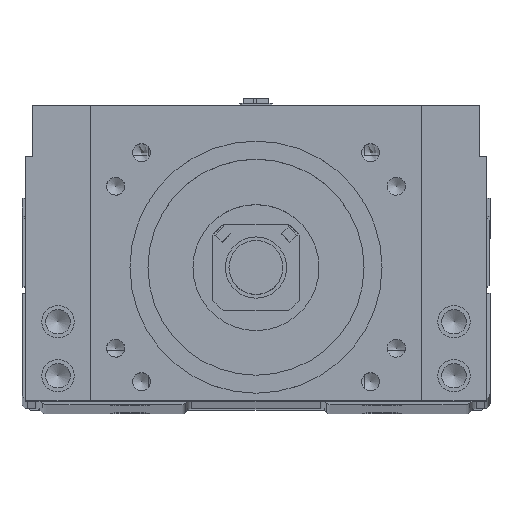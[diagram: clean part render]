
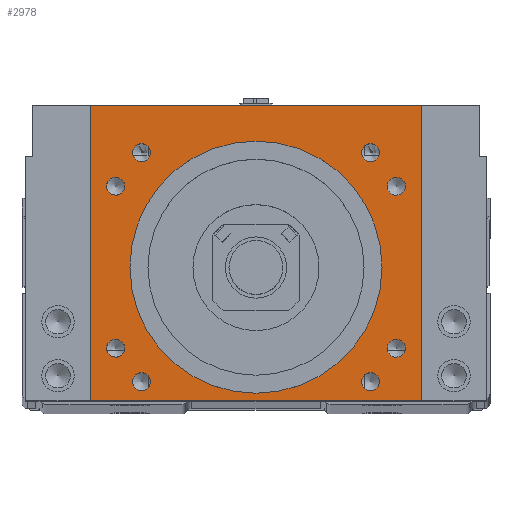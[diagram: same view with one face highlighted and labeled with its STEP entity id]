
A CAD part, top view. The second image highlights one B-rep face of the part: STEP entity #2978.
In plain terms, the highlighted planar face has unit normal (0, 0, 1).
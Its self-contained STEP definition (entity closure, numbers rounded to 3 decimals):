
#2044=FACE_BOUND('',#5305,.T.);
#2045=FACE_BOUND('',#5306,.T.);
#2046=FACE_BOUND('',#5307,.T.);
#2047=FACE_BOUND('',#5308,.T.);
#2048=FACE_BOUND('',#5309,.T.);
#2049=FACE_BOUND('',#5310,.T.);
#2050=FACE_BOUND('',#5311,.T.);
#2051=FACE_BOUND('',#5312,.T.);
#2052=FACE_BOUND('',#5313,.T.);
#2053=FACE_BOUND('',#5314,.T.);
#2978=ADVANCED_FACE('',(#2044,#2045,#2046,#2047,#2048,#2049,#2050,#2051,
#2052,#2053),#3853,.T.);
#3853=PLANE('',#17960);
#5305=EDGE_LOOP('',(#8374,#8375,#8376,#8377));
#5306=EDGE_LOOP('',(#8378));
#5307=EDGE_LOOP('',(#8379));
#5308=EDGE_LOOP('',(#8380));
#5309=EDGE_LOOP('',(#8381));
#5310=EDGE_LOOP('',(#8382));
#5311=EDGE_LOOP('',(#8383));
#5312=EDGE_LOOP('',(#8384));
#5313=EDGE_LOOP('',(#8385));
#5314=EDGE_LOOP('',(#8386));
#6519=CIRCLE('',#17950,35.015);
#6520=CIRCLE('',#17952,2.5);
#6521=CIRCLE('',#17953,2.5);
#6522=CIRCLE('',#17954,2.5);
#6523=CIRCLE('',#17955,2.5);
#6524=CIRCLE('',#17956,2.5);
#6525=CIRCLE('',#17957,2.5);
#6526=CIRCLE('',#17958,2.5);
#6527=CIRCLE('',#17959,2.5);
#8374=ORIENTED_EDGE('',*,*,#13492,.T.);
#8375=ORIENTED_EDGE('',*,*,#13480,.T.);
#8376=ORIENTED_EDGE('',*,*,#13487,.T.);
#8377=ORIENTED_EDGE('',*,*,#13497,.T.);
#8378=ORIENTED_EDGE('',*,*,#13505,.F.);
#8379=ORIENTED_EDGE('',*,*,#13506,.T.);
#8380=ORIENTED_EDGE('',*,*,#13507,.T.);
#8381=ORIENTED_EDGE('',*,*,#13508,.F.);
#8382=ORIENTED_EDGE('',*,*,#13504,.F.);
#8383=ORIENTED_EDGE('',*,*,#13509,.T.);
#8384=ORIENTED_EDGE('',*,*,#13510,.T.);
#8385=ORIENTED_EDGE('',*,*,#13511,.T.);
#8386=ORIENTED_EDGE('',*,*,#13512,.T.);
#11696=VERTEX_POINT('',#25462);
#11697=VERTEX_POINT('',#25464);
#11701=VERTEX_POINT('',#25475);
#11703=VERTEX_POINT('',#25486);
#11709=VERTEX_POINT('',#25510);
#11710=VERTEX_POINT('',#25513);
#11711=VERTEX_POINT('',#25515);
#11712=VERTEX_POINT('',#25517);
#11713=VERTEX_POINT('',#25519);
#11714=VERTEX_POINT('',#25521);
#11715=VERTEX_POINT('',#25523);
#11716=VERTEX_POINT('',#25525);
#11717=VERTEX_POINT('',#25527);
#13480=EDGE_CURVE('',#11697,#11696,#15292,.T.);
#13487=EDGE_CURVE('',#11696,#11701,#15297,.T.);
#13492=EDGE_CURVE('',#11703,#11697,#15302,.T.);
#13497=EDGE_CURVE('',#11701,#11703,#15307,.T.);
#13504=EDGE_CURVE('',#11709,#11709,#6519,.T.);
#13505=EDGE_CURVE('',#11710,#11710,#6520,.T.);
#13506=EDGE_CURVE('',#11711,#11711,#6521,.T.);
#13507=EDGE_CURVE('',#11712,#11712,#6522,.T.);
#13508=EDGE_CURVE('',#11713,#11713,#6523,.T.);
#13509=EDGE_CURVE('',#11714,#11714,#6524,.T.);
#13510=EDGE_CURVE('',#11715,#11715,#6525,.T.);
#13511=EDGE_CURVE('',#11716,#11716,#6526,.T.);
#13512=EDGE_CURVE('',#11717,#11717,#6527,.T.);
#15292=LINE('',#25463,#16547);
#15297=LINE('',#25477,#16552);
#15302=LINE('',#25485,#16557);
#15307=LINE('',#25494,#16562);
#16547=VECTOR('',#20555,1.);
#16552=VECTOR('',#20566,1.);
#16557=VECTOR('',#20577,1.);
#16562=VECTOR('',#20584,1.);
#17950=AXIS2_PLACEMENT_3D('',#25509,#20603,#20604);
#17952=AXIS2_PLACEMENT_3D('',#25512,#20607,#20608);
#17953=AXIS2_PLACEMENT_3D('',#25514,#20609,#20610);
#17954=AXIS2_PLACEMENT_3D('',#25516,#20611,#20612);
#17955=AXIS2_PLACEMENT_3D('',#25518,#20613,#20614);
#17956=AXIS2_PLACEMENT_3D('',#25520,#20615,#20616);
#17957=AXIS2_PLACEMENT_3D('',#25522,#20617,#20618);
#17958=AXIS2_PLACEMENT_3D('',#25524,#20619,#20620);
#17959=AXIS2_PLACEMENT_3D('',#25526,#20621,#20622);
#17960=AXIS2_PLACEMENT_3D('',#25528,#20623,#20624);
#20555=DIRECTION('',(-1.,0.,0.));
#20566=DIRECTION('',(0.,-1.,0.));
#20577=DIRECTION('',(0.,1.,0.));
#20584=DIRECTION('',(1.,0.,0.));
#20603=DIRECTION('',(0.,0.,1.));
#20604=DIRECTION('',(1.,0.,0.));
#20607=DIRECTION('',(0.,0.,1.));
#20608=DIRECTION('',(-1.,0.,0.));
#20609=DIRECTION('',(0.,0.,-1.));
#20610=DIRECTION('',(1.,0.,0.));
#20611=DIRECTION('',(0.,0.,-1.));
#20612=DIRECTION('',(1.,0.,0.));
#20613=DIRECTION('',(0.,0.,1.));
#20614=DIRECTION('',(-1.,0.,0.));
#20615=DIRECTION('',(0.,0.,-1.));
#20616=DIRECTION('',(1.,0.,0.));
#20617=DIRECTION('',(0.,0.,-1.));
#20618=DIRECTION('',(1.,0.,0.));
#20619=DIRECTION('',(0.,0.,-1.));
#20620=DIRECTION('',(1.,0.,0.));
#20621=DIRECTION('',(0.,0.,-1.));
#20622=DIRECTION('',(1.,0.,0.));
#20623=DIRECTION('',(0.,0.,1.));
#20624=DIRECTION('',(-1.,0.,0.));
#25462=CARTESIAN_POINT('',(-46.,83.,100.));
#25463=CARTESIAN_POINT('',(0.,83.,100.));
#25464=CARTESIAN_POINT('',(46.,83.,100.));
#25475=CARTESIAN_POINT('',(-46.,1.,100.));
#25477=CARTESIAN_POINT('',(-46.,38.,100.));
#25485=CARTESIAN_POINT('',(46.,38.,100.));
#25486=CARTESIAN_POINT('',(46.,1.,100.));
#25494=CARTESIAN_POINT('',(0.,1.,100.));
#25509=CARTESIAN_POINT('',(0.,38.,100.));
#25510=CARTESIAN_POINT('',(35.015,38.,100.));
#25512=CARTESIAN_POINT('',(-38.971,15.5,100.));
#25513=CARTESIAN_POINT('',(-41.471,15.5,100.));
#25514=CARTESIAN_POINT('',(38.971,60.5,100.));
#25515=CARTESIAN_POINT('',(41.471,60.5,100.));
#25516=CARTESIAN_POINT('',(38.971,15.5,100.));
#25517=CARTESIAN_POINT('',(41.471,15.5,100.));
#25518=CARTESIAN_POINT('',(-38.971,60.5,100.));
#25519=CARTESIAN_POINT('',(-41.471,60.5,100.));
#25520=CARTESIAN_POINT('',(-31.82,69.82,100.));
#25521=CARTESIAN_POINT('',(-29.32,69.82,100.));
#25522=CARTESIAN_POINT('',(-31.82,6.18,100.));
#25523=CARTESIAN_POINT('',(-29.32,6.18,100.));
#25524=CARTESIAN_POINT('',(31.82,6.18,100.));
#25525=CARTESIAN_POINT('',(34.32,6.18,100.));
#25526=CARTESIAN_POINT('',(31.82,69.82,100.));
#25527=CARTESIAN_POINT('',(34.32,69.82,100.));
#25528=CARTESIAN_POINT('',(0.,38.,100.));
